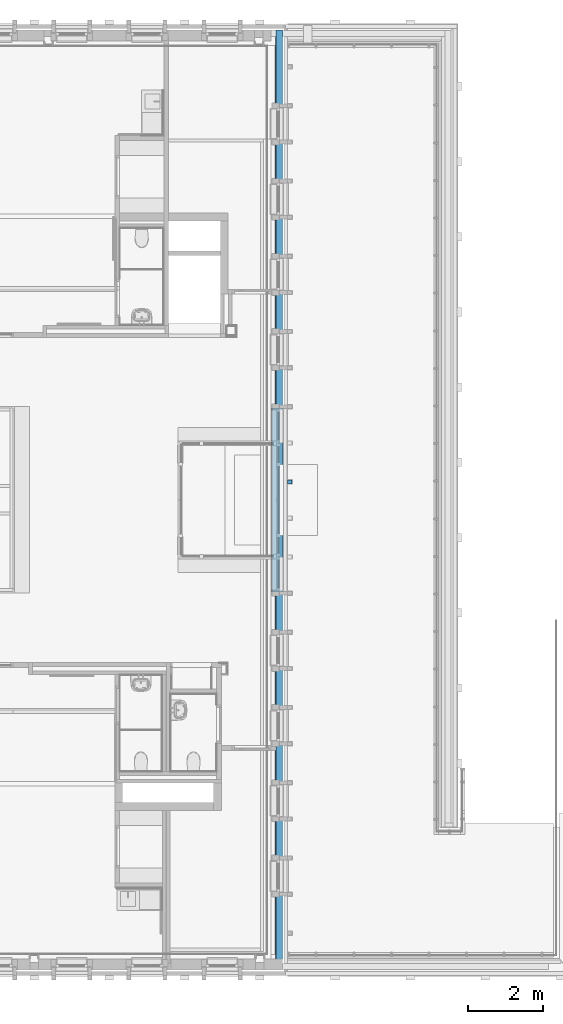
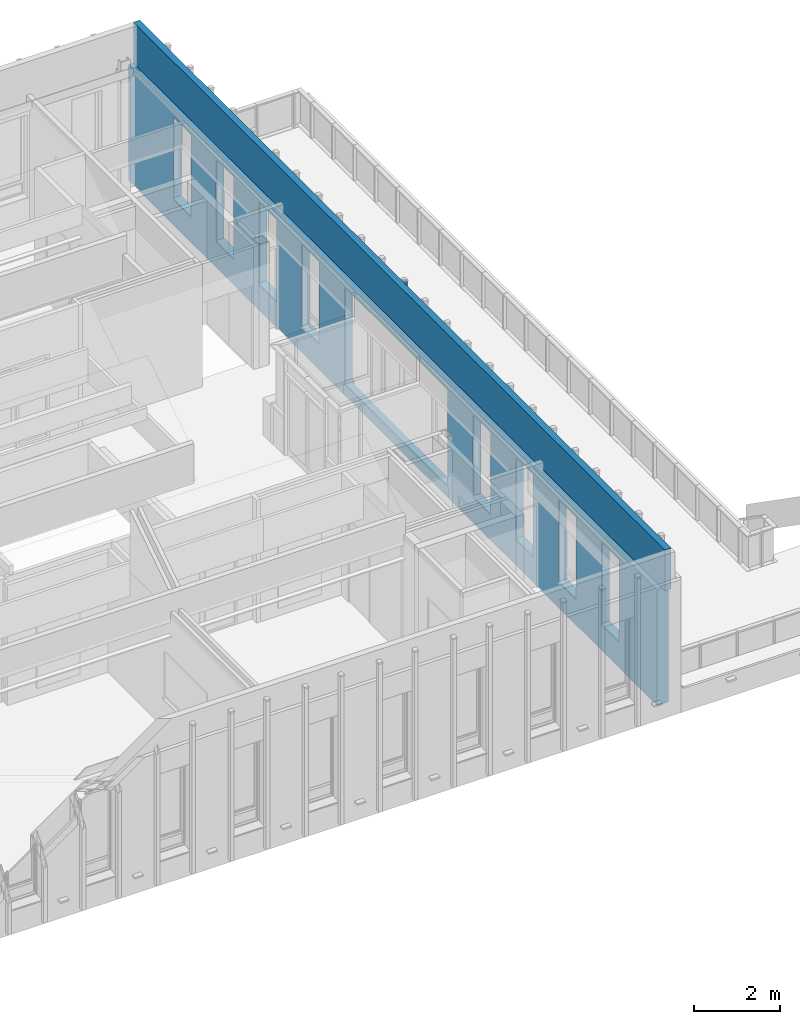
# One storey, part 46 of 118: 4 walls, 13 openings.
"""IFC2X3 building model written with IfcOpenShell, lengths in millimetres."""

from ifc_helpers import new_model, entity, si_unit, converted_unit, derived_unit, direction, frame, frame_2d, origin, origin_2d_with_axis, place, context, subcontext, project, spatial, rectangle, extrude, faceted_brep, material, layer, layer_set, layer_usage, type_object, element, save


model = new_model("IFC2X3")

# Units and contexts
model_context = context("Model", 3, precision=0.01, world=origin(), true_north=direction((6.123031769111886e-17, 1.0)))
plan_context = context("Plan", 3, precision=0.01, world=origin(), true_north=direction((6.123031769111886e-17, 1.0)))
body_context = subcontext(model_context, "Body", "Model", "MODEL_VIEW")
ifc_project = project(units=[si_unit("LENGTHUNIT", "METRE", prefix="MILLI"), si_unit("AREAUNIT", "SQUARE_METRE"), si_unit("VOLUMEUNIT", "CUBIC_METRE"), converted_unit("PLANEANGLEUNIT", "DEGREE", entity("IfcRatioMeasure", 0.017453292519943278), si_unit("PLANEANGLEUNIT", "RADIAN"), dimensions=[0, 0, 0, 0, 0, 0, 0]), si_unit("MASSUNIT", "GRAM", prefix="KILO"), derived_unit("MASSDENSITYUNIT", [(si_unit("MASSUNIT", "GRAM", prefix="KILO"), 1), (si_unit("LENGTHUNIT", "METRE"), -3)]), derived_unit("IONCONCENTRATIONUNIT", [(si_unit("MASSUNIT", "GRAM", prefix="KILO"), 1), (si_unit("LENGTHUNIT", "METRE"), -3)]), derived_unit("MOMENTOFINERTIAUNIT", [(si_unit("LENGTHUNIT", "METRE"), 4)]), si_unit("TIMEUNIT", "SECOND"), si_unit("FREQUENCYUNIT", "HERTZ"), si_unit("THERMODYNAMICTEMPERATUREUNIT", "DEGREE_CELSIUS"), derived_unit("THERMALTRANSMITTANCEUNIT", [(si_unit("MASSUNIT", "GRAM", prefix="KILO"), 1), (si_unit("THERMODYNAMICTEMPERATUREUNIT", "KELVIN"), -1), (si_unit("TIMEUNIT", "SECOND"), -3)]), derived_unit("THERMALCONDUCTANCEUNIT", [(si_unit("MASSUNIT", "GRAM", prefix="KILO"), 1), (si_unit("THERMODYNAMICTEMPERATUREUNIT", "KELVIN"), -1), (si_unit("TIMEUNIT", "SECOND"), -3), (si_unit("LENGTHUNIT", "METRE"), 1)]), derived_unit("VOLUMETRICFLOWRATEUNIT", [(si_unit("LENGTHUNIT", "METRE"), 3), (si_unit("TIMEUNIT", "SECOND"), -1)]), derived_unit("MASSFLOWRATEUNIT", [(si_unit("MASSUNIT", "GRAM", prefix="KILO"), 1), (si_unit("TIMEUNIT", "SECOND"), -1)]), derived_unit("ROTATIONALFREQUENCYUNIT", [(si_unit("TIMEUNIT", "SECOND"), -1)]), si_unit("ELECTRICCURRENTUNIT", "AMPERE"), si_unit("ELECTRICVOLTAGEUNIT", "VOLT"), si_unit("POWERUNIT", "WATT"), si_unit("FORCEUNIT", "NEWTON", prefix="KILO"), si_unit("ILLUMINANCEUNIT", "LUX"), si_unit("LUMINOUSFLUXUNIT", "LUMEN"), si_unit("LUMINOUSINTENSITYUNIT", "CANDELA"), derived_unit("USERDEFINED", [(si_unit("MASSUNIT", "GRAM", prefix="KILO"), -1), (si_unit("LENGTHUNIT", "METRE"), -2), (si_unit("TIMEUNIT", "SECOND"), 3), (si_unit("LUMINOUSFLUXUNIT", "LUMEN"), 1)]), derived_unit("USERDEFINED", [(si_unit("MASSUNIT", "GRAM", prefix="KILO"), 1), (si_unit("TIMEUNIT", "SECOND"), -3), (si_unit("LENGTHUNIT", "METRE"), 3), (si_unit("ELECTRICCURRENTUNIT", "AMPERE"), -2)]), derived_unit("SOUNDPOWERUNIT", [(si_unit("MASSUNIT", "GRAM", prefix="KILO"), 1), (si_unit("TIMEUNIT", "SECOND"), -3), (si_unit("LENGTHUNIT", "METRE"), 2)]), derived_unit("SOUNDPRESSUREUNIT", [(si_unit("MASSUNIT", "GRAM", prefix="KILO"), 1), (si_unit("LENGTHUNIT", "METRE"), -1), (si_unit("TIMEUNIT", "SECOND"), -2)]), derived_unit("LINEARVELOCITYUNIT", [(si_unit("LENGTHUNIT", "METRE"), 1), (si_unit("TIMEUNIT", "SECOND"), -1)]), si_unit("PRESSUREUNIT", "PASCAL"), derived_unit("USERDEFINED", [(si_unit("MASSUNIT", "GRAM", prefix="KILO"), 1), (si_unit("LENGTHUNIT", "METRE"), -2), (si_unit("TIMEUNIT", "SECOND"), -2)]), derived_unit("LINEARFORCEUNIT", [(si_unit("MASSUNIT", "GRAM", prefix="KILO"), 1), (si_unit("TIMEUNIT", "SECOND"), -2)]), derived_unit("PLANARFORCEUNIT", [(si_unit("MASSUNIT", "GRAM", prefix="KILO"), 1), (si_unit("LENGTHUNIT", "METRE"), -1), (si_unit("TIMEUNIT", "SECOND"), -2)]), derived_unit("SPECIFICHEATCAPACITYUNIT", [(si_unit("THERMODYNAMICTEMPERATUREUNIT", "KELVIN"), -1), (si_unit("LENGTHUNIT", "METRE"), 2), (si_unit("TIMEUNIT", "SECOND"), -2)]), derived_unit("HEATINGVALUEUNIT", [(si_unit("LENGTHUNIT", "METRE"), 2), (si_unit("TIMEUNIT", "SECOND"), -2)]), derived_unit("VAPORPERMEABILITYUNIT", [(si_unit("LENGTHUNIT", "METRE"), -1), (si_unit("TIMEUNIT", "SECOND"), 1)]), derived_unit("DYNAMICVISCOSITYUNIT", [(si_unit("MASSUNIT", "GRAM", prefix="KILO"), 1), (si_unit("TIMEUNIT", "SECOND"), -1), (si_unit("LENGTHUNIT", "METRE"), -1)]), derived_unit("THERMALEXPANSIONCOEFFICIENTUNIT", [(si_unit("THERMODYNAMICTEMPERATUREUNIT", "KELVIN"), -1)]), derived_unit("MODULUSOFELASTICITYUNIT", [(si_unit("MASSUNIT", "GRAM", prefix="KILO"), 1), (si_unit("LENGTHUNIT", "METRE"), -1), (si_unit("TIMEUNIT", "SECOND"), -2)]), derived_unit("ISOTHERMALMOISTURECAPACITYUNIT", [(si_unit("LENGTHUNIT", "METRE"), 3), (si_unit("MASSUNIT", "GRAM", prefix="KILO"), -1)]), derived_unit("MOISTUREDIFFUSIVITYUNIT", [(si_unit("TIMEUNIT", "SECOND"), -1), (si_unit("LENGTHUNIT", "METRE"), 2)])], contexts=[model_context, plan_context])

# Site, building, storey
site_placement = place(None, origin())
site = spatial("IfcSite", under=ifc_project, at=site_placement, Name="Locatie", CompositionType="ELEMENT")
building_placement = place(site_placement, origin())
building = spatial("IfcBuilding", under=site, at=building_placement, Name="Bouwwerk", CompositionType="ELEMENT")
storey_placement = place(building_placement, frame((0.0, 0.0, 7800.0)))
storey = spatial("IfcBuildingStorey", under=building, at=storey_placement, Name="02 tweede verdieping", CompositionType="ELEMENT", Elevation=7800.000000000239)

# Wall, openings
ifc_material_1 = material(Name="n7_isolatie_glaswol")
ifc_layer_1 = layer(ifc_material_1, 30.0)
ifc_layer_2 = layer(ifc_material_1, 245.0)
ifc_material_2 = material(Name="i4_multiplex")
ifc_layer_3 = layer(ifc_material_2, 12.0)
ifc_material_3 = material(Name="f7_gipsvezel")
ifc_layer_4 = layer(ifc_material_3, 13.000000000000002)
ifc_layer_set_1 = layer_set([ifc_layer_1, ifc_layer_2, ifc_layer_3, ifc_layer_4], Name="Basic Wall:NLRS_22_WA_HSB bispouw 30-245-12-13 glaswol_gen_ISR")
ifc_layer_usage_1 = layer_usage(ifc_layer_set_1, "AXIS2", "NEGATIVE", 150.0)
wall_type_1 = type_object("IfcWallType", Name="Basic Wall:NLRS_22_WA_HSB bispouw 30-245-12-13 glaswol_gen_ISR", PredefinedType="STANDARD", material=ifc_layer_set_1)
wall_1_placement = place(storey_placement, frame((34750.0, 34700.0, -30.0), z_axis=(0.0, 0.0, 1.0), x_axis=(0.0, -1.0, 0.0)))
wall_1 = element("IfcWallStandardCase", 1, at=wall_1_placement, inside=storey, type_object=wall_type_1, material=ifc_layer_usage_1, Name="Basic Wall:NLRS_22_WA_HSB bispouw 30-245-12-13 glaswol_gen_ISR", ObjectType="Basic Wall:NLRS_22_WA_HSB bispouw 30-245-12-13 glaswol_gen_ISR", context=body_context, shape_type="SweptSolid", body=[
    extrude(rectangle(XDim=24699.999999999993, YDim=300.0000000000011, at=frame_2d((12349.999999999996, 1.8474111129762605e-13), x_axis=(1.0, 0.0))), origin(), (0.0, 0.0, 1.0), 3305.0000000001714),
])
opening_1_placement = place(wall_1_placement, origin())
element("IfcOpeningElement", 2, at=opening_1_placement, cuts=wall_1, Name="Basic Wall:NLRS_22_WA_HSB bispouw 30-245-12-13 glaswol_gen_ISR", ObjectType="Opening", context=body_context, shape_type="SweptSolid", body=[
    extrude(rectangle(XDim=324.9999999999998, YDim=4906.000000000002, at=origin_2d_with_axis()), frame((12500.0, -150.0, 162.49999999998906), z_axis=(0.0, 1.0, 0.0), x_axis=(0.0, 0.0, -1.0)), (0.0, 0.0, 1.0), 300.0000000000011),
])
opening_2_placement = place(wall_1_placement, origin())
element("IfcOpeningElement", 3, at=opening_2_placement, cuts=wall_1, Name="Basic Wall:NLRS_22_WA_HSB bispouw 30-245-12-13 glaswol_gen_ISR", ObjectType="Opening", context=body_context, shape_type="SweptSolid", body=[
    extrude(rectangle(XDim=2387.000000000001, YDim=124.99999999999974, at=frame_2d((-1.0835776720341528e-12, -1.1368683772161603e-12), x_axis=(0.0, 1.0))), frame((19093.0, -1184.0, 1223.4999999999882), z_axis=(0.0, 1.0, 0.0), x_axis=(1.0, 0.0, 0.0)), (0.0, 0.0, 1.0), 1034.0000000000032),
])
opening_3_placement = place(wall_1_placement, origin())
element("IfcOpeningElement", 4, at=opening_3_placement, cuts=wall_1, Name="Basic Wall:NLRS_22_WA_HSB bispouw 30-245-12-13 glaswol_gen_ISR", ObjectType="Opening", context=body_context, shape_type="SweptSolid", body=[
    extrude(rectangle(XDim=2387.000000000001, YDim=125.0000000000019, at=frame_2d((-2.1671553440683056e-12, -1.1368683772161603e-12), x_axis=(0.0, 1.0))), frame((6960.500000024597, -1184.0, 1223.4999999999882), z_axis=(0.0, 1.0, 0.0), x_axis=(1.0, 0.0, 0.0)), (0.0, 0.0, 1.0), 1034.0000000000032),
])
opening_4_placement = place(wall_1_placement, frame((15056.0, -150.0, 216.0), z_axis=(0.0, 0.0, 1.0), x_axis=(0.0, 1.0, 0.0)))
element("IfcOpeningElement", 5, at=opening_4_placement, cuts=wall_1, Name="Basic Wall:NLRS_22_WA_HSB bispouw 30-245-12-13 glaswol_gen_ISR", ObjectType="Opening", context=body_context, shape_type="Brep", body=[
    faceted_brep([(340.0, 24.0, 2884.0), (340.0, 103.0, 2884.0), (340.0, 103.0, 42.0), (340.0, 5009.0, 42.0), (340.0, 5009.0, 2884.0), (340.0, 5088.0, 2884.0), (340.0, 5088.0, 0.0), (340.0, 24.0, 0.0), (640.0, 5088.0, 2884.0), (640.0, 24.0, 2884.0), (640.0, 24.0, 0.0), (640.0, 5088.0, 0.0), (25.0, 5112.0, 3011.0), (25.0, 5112.0, 62.0), (25.0, 0.0, 62.0), (25.0, 0.0, 3011.0), (25.0, 4964.0, 2860.0), (25.0, 148.0, 2860.0), (25.0, 148.0, 87.0), (25.0, 4964.0, 87.0), (300.0, 5112.0, 3011.0), (300.0, 5112.0, 62.0), (300.0, 5009.0, 62.0), (300.0, 103.0, 62.0), (300.0, 0.0, 62.0), (300.0, 0.0, 3011.0), (300.0, 103.0, 42.0), (300.0, 5009.0, 42.0), (340.0, 103.0, 2925.0), (340.0, 5009.0, 2925.0), (300.0, 5009.0, 2925.0), (300.0, 103.0, 2925.0), (0.0, 4964.0, 2860.0), (0.0, 4964.0, 87.0), (0.0, 148.0, 87.0), (0.0, 148.0, 2860.0)], [[[0, 1, 2, 3, 4, 5, 6, 7]], [[8, 9, 10, 11]], [[5, 8, 11, 6]], [[6, 11, 10, 7]], [[7, 10, 9, 0]], [[8, 5, 4, 1, 0, 9]], [[12, 13, 14, 15], [16, 17, 18, 19]], [[12, 20, 21, 13]], [[13, 21, 22, 23, 24, 14]], [[14, 24, 25, 15]], [[15, 25, 20, 12]], [[26, 23, 22, 27]], [[28, 1, 4, 29]], [[29, 30, 31, 28]], [[32, 33, 34, 35]], [[32, 16, 19, 33]], [[33, 19, 18, 34]], [[34, 18, 17, 35]], [[35, 17, 16, 32]], [[20, 25, 24, 23, 31, 30, 22, 21]], [[27, 22, 30, 29, 4, 3]], [[2, 1, 28, 31, 23, 26]], [[27, 3, 2, 26]]]),
])
opening_5_placement = place(wall_1_placement, frame((3056.0, -325.0, 633.0), z_axis=(0.0, 0.0, 1.0), x_axis=(0.0, 1.0, 0.0)))
element("IfcOpeningElement", 6, at=opening_5_placement, cuts=wall_1, Name="Basic Wall:NLRS_22_WA_HSB bispouw 30-245-12-13 glaswol_gen_ISR", ObjectType="Opening", context=body_context, shape_type="Brep", body=[
    faceted_brep([(515.0, 24.0, 2472.0), (515.0, 103.0, 2472.0), (515.0, 103.0, 42.0), (515.0, 1009.0, 42.0), (515.0, 1009.0, 2472.0), (515.0, 1088.0, 2472.0), (515.0, 1088.0, 0.0), (515.0, 24.0, 0.0), (615.0, 1088.0, 2472.0), (615.0, 24.0, 2472.0), (615.0, 24.0, 0.0), (615.0, 1088.0, 0.0), (200.0, 1112.0, 2594.0), (200.0, 1112.0, 11.0), (200.0, 0.0, 11.0), (200.0, 0.0, 2594.0), (200.0, 964.0, 2443.0), (200.0, 148.0, 2443.0), (200.0, 148.0, 87.0), (200.0, 964.0, 87.0), (475.0, 1112.0, 2594.0), (475.0, 0.0, 2594.0), (475.0, 0.0, 11.0), (475.0, 1112.0, 11.0), (475.0, 1009.0, 42.0), (475.0, 103.0, 42.0), (475.0, 103.0, 2508.0), (475.0, 1009.0, 2508.0), (515.0, 103.0, 2508.0), (515.0, 1009.0, 2508.0), (0.0, 964.0, 2443.0), (0.0, 964.0, 87.0), (0.0, 148.0, 87.0), (0.0, 148.0, 2443.0)], [[[0, 1, 2, 3, 4, 5, 6, 7]], [[8, 9, 10, 11]], [[5, 8, 11, 6]], [[6, 11, 10, 7]], [[7, 10, 9, 0]], [[8, 5, 4, 1, 0, 9]], [[12, 13, 14, 15], [16, 17, 18, 19]], [[20, 21, 22, 23], [24, 25, 26, 27]], [[12, 20, 23, 13]], [[13, 23, 22, 14]], [[14, 22, 21, 15]], [[15, 21, 20, 12]], [[28, 1, 4, 29]], [[3, 2, 25, 24]], [[29, 27, 26, 28]], [[30, 31, 32, 33]], [[30, 16, 19, 31]], [[31, 19, 18, 32]], [[32, 18, 17, 33]], [[33, 17, 16, 30]], [[24, 27, 29, 4, 3]], [[2, 1, 28, 26, 25]]]),
])
opening_6_placement = place(wall_1_placement, frame((5056.0, -325.0, 633.0), z_axis=(0.0, 0.0, 1.0), x_axis=(0.0, 1.0, 0.0)))
element("IfcOpeningElement", 7, at=opening_6_placement, cuts=wall_1, Name="Basic Wall:NLRS_22_WA_HSB bispouw 30-245-12-13 glaswol_gen_ISR", ObjectType="Opening", context=body_context, shape_type="Brep", body=[
    faceted_brep([(515.0, 24.0, 2472.0), (515.0, 103.0, 2472.0), (515.0, 103.0, 42.0), (515.0, 1009.0, 42.0), (515.0, 1009.0, 2472.0), (515.0, 1088.0, 2472.0), (515.0, 1088.0, 0.0), (515.0, 24.0, 0.0), (615.0, 1088.0, 2472.0), (615.0, 24.0, 2472.0), (615.0, 24.0, 0.0), (615.0, 1088.0, 0.0), (200.0, 1112.0, 2594.0), (200.0, 1112.0, 11.0), (200.0, 0.0, 11.0), (200.0, 0.0, 2594.0), (200.0, 964.0, 2443.0), (200.0, 148.0, 2443.0), (200.0, 148.0, 87.0), (200.0, 964.0, 87.0), (475.0, 1112.0, 2594.0), (475.0, 0.0, 2594.0), (475.0, 0.0, 11.0), (475.0, 1112.0, 11.0), (475.0, 1009.0, 42.0), (475.0, 103.0, 42.0), (475.0, 103.0, 2508.0), (475.0, 1009.0, 2508.0), (515.0, 103.0, 2508.0), (515.0, 1009.0, 2508.0), (0.0, 964.0, 2443.0), (0.0, 964.0, 87.0), (0.0, 148.0, 87.0), (0.0, 148.0, 2443.0)], [[[0, 1, 2, 3, 4, 5, 6, 7]], [[8, 9, 10, 11]], [[5, 8, 11, 6]], [[6, 11, 10, 7]], [[7, 10, 9, 0]], [[8, 5, 4, 1, 0, 9]], [[12, 13, 14, 15], [16, 17, 18, 19]], [[20, 21, 22, 23], [24, 25, 26, 27]], [[12, 20, 23, 13]], [[13, 23, 22, 14]], [[14, 22, 21, 15]], [[15, 21, 20, 12]], [[28, 1, 4, 29]], [[3, 2, 25, 24]], [[29, 27, 26, 28]], [[30, 31, 32, 33]], [[30, 16, 19, 31]], [[31, 19, 18, 32]], [[32, 18, 17, 33]], [[33, 17, 16, 30]], [[24, 27, 29, 4, 3]], [[2, 1, 28, 26, 25]]]),
])
opening_7_placement = place(wall_1_placement, frame((7056.0, -325.0, 633.0), z_axis=(0.0, 0.0, 1.0), x_axis=(0.0, 1.0, 0.0)))
element("IfcOpeningElement", 8, at=opening_7_placement, cuts=wall_1, Name="Basic Wall:NLRS_22_WA_HSB bispouw 30-245-12-13 glaswol_gen_ISR", ObjectType="Opening", context=body_context, shape_type="Brep", body=[
    faceted_brep([(515.0, 24.0, 2472.0), (515.0, 103.0, 2472.0), (515.0, 103.0, 42.0), (515.0, 1009.0, 42.0), (515.0, 1009.0, 2472.0), (515.0, 1088.0, 2472.0), (515.0, 1088.0, 0.0), (515.0, 24.0, 0.0), (615.0, 1088.0, 2472.0), (615.0, 24.0, 2472.0), (615.0, 24.0, 0.0), (615.0, 1088.0, 0.0), (200.0, 1112.0, 2594.0), (200.0, 1112.0, 11.0), (200.0, 0.0, 11.0), (200.0, 0.0, 2594.0), (200.0, 964.0, 2443.0), (200.0, 148.0, 2443.0), (200.0, 148.0, 87.0), (200.0, 964.0, 87.0), (475.0, 1112.0, 2594.0), (475.0, 0.0, 2594.0), (475.0, 0.0, 11.0), (475.0, 1112.0, 11.0), (475.0, 1009.0, 42.0), (475.0, 103.0, 42.0), (475.0, 103.0, 2508.0), (475.0, 1009.0, 2508.0), (515.0, 103.0, 2508.0), (515.0, 1009.0, 2508.0), (0.0, 964.0, 2443.0), (0.0, 964.0, 87.0), (0.0, 148.0, 87.0), (0.0, 148.0, 2443.0)], [[[0, 1, 2, 3, 4, 5, 6, 7]], [[8, 9, 10, 11]], [[5, 8, 11, 6]], [[6, 11, 10, 7]], [[7, 10, 9, 0]], [[8, 5, 4, 1, 0, 9]], [[12, 13, 14, 15], [16, 17, 18, 19]], [[20, 21, 22, 23], [24, 25, 26, 27]], [[12, 20, 23, 13]], [[13, 23, 22, 14]], [[14, 22, 21, 15]], [[15, 21, 20, 12]], [[28, 1, 4, 29]], [[3, 2, 25, 24]], [[29, 27, 26, 28]], [[30, 31, 32, 33]], [[30, 16, 19, 31]], [[31, 19, 18, 32]], [[32, 18, 17, 33]], [[33, 17, 16, 30]], [[24, 27, 29, 4, 3]], [[2, 1, 28, 26, 25]]]),
])
opening_8_placement = place(wall_1_placement, frame((17056.0, -325.0, 633.0), z_axis=(0.0, 0.0, 1.0), x_axis=(0.0, 1.0, 0.0)))
element("IfcOpeningElement", 9, at=opening_8_placement, cuts=wall_1, Name="Basic Wall:NLRS_22_WA_HSB bispouw 30-245-12-13 glaswol_gen_ISR", ObjectType="Opening", context=body_context, shape_type="Brep", body=[
    faceted_brep([(515.0, 24.0, 2472.0), (515.0, 103.0, 2472.0), (515.0, 103.0, 42.0), (515.0, 1009.0, 42.0), (515.0, 1009.0, 2472.0), (515.0, 1088.0, 2472.0), (515.0, 1088.0, 0.0), (515.0, 24.0, 0.0), (615.0, 1088.0, 2472.0), (615.0, 24.0, 2472.0), (615.0, 24.0, 0.0), (615.0, 1088.0, 0.0), (200.0, 1112.0, 2594.0), (200.0, 1112.0, 11.0), (200.0, 0.0, 11.0), (200.0, 0.0, 2594.0), (200.0, 964.0, 2443.0), (200.0, 148.0, 2443.0), (200.0, 148.0, 87.0), (200.0, 964.0, 87.0), (475.0, 1112.0, 2594.0), (475.0, 0.0, 2594.0), (475.0, 0.0, 11.0), (475.0, 1112.0, 11.0), (475.0, 1009.0, 42.0), (475.0, 103.0, 42.0), (475.0, 103.0, 2508.0), (475.0, 1009.0, 2508.0), (515.0, 103.0, 2508.0), (515.0, 1009.0, 2508.0), (0.0, 964.0, 2443.0), (0.0, 964.0, 87.0), (0.0, 148.0, 87.0), (0.0, 148.0, 2443.0)], [[[0, 1, 2, 3, 4, 5, 6, 7]], [[8, 9, 10, 11]], [[5, 8, 11, 6]], [[6, 11, 10, 7]], [[7, 10, 9, 0]], [[8, 5, 4, 1, 0, 9]], [[12, 13, 14, 15], [16, 17, 18, 19]], [[20, 21, 22, 23], [24, 25, 26, 27]], [[12, 20, 23, 13]], [[13, 23, 22, 14]], [[14, 22, 21, 15]], [[15, 21, 20, 12]], [[28, 1, 4, 29]], [[3, 2, 25, 24]], [[29, 27, 26, 28]], [[30, 31, 32, 33]], [[30, 16, 19, 31]], [[31, 19, 18, 32]], [[32, 18, 17, 33]], [[33, 17, 16, 30]], [[24, 27, 29, 4, 3]], [[2, 1, 28, 26, 25]]]),
])
opening_9_placement = place(wall_1_placement, frame((19056.0, -325.0, 633.0), z_axis=(0.0, 0.0, 1.0), x_axis=(0.0, 1.0, 0.0)))
element("IfcOpeningElement", 10, at=opening_9_placement, cuts=wall_1, Name="Basic Wall:NLRS_22_WA_HSB bispouw 30-245-12-13 glaswol_gen_ISR", ObjectType="Opening", context=body_context, shape_type="Brep", body=[
    faceted_brep([(515.0, 24.0, 2472.0), (515.0, 103.0, 2472.0), (515.0, 103.0, 42.0), (515.0, 1009.0, 42.0), (515.0, 1009.0, 2472.0), (515.0, 1088.0, 2472.0), (515.0, 1088.0, 0.0), (515.0, 24.0, 0.0), (615.0, 1088.0, 2472.0), (615.0, 24.0, 2472.0), (615.0, 24.0, 0.0), (615.0, 1088.0, 0.0), (200.0, 1112.0, 2594.0), (200.0, 1112.0, 11.0), (200.0, 0.0, 11.0), (200.0, 0.0, 2594.0), (200.0, 964.0, 2443.0), (200.0, 148.0, 2443.0), (200.0, 148.0, 87.0), (200.0, 964.0, 87.0), (475.0, 1112.0, 2594.0), (475.0, 0.0, 2594.0), (475.0, 0.0, 11.0), (475.0, 1112.0, 11.0), (475.0, 1009.0, 42.0), (475.0, 103.0, 42.0), (475.0, 103.0, 2508.0), (475.0, 1009.0, 2508.0), (515.0, 103.0, 2508.0), (515.0, 1009.0, 2508.0), (0.0, 964.0, 2443.0), (0.0, 964.0, 87.0), (0.0, 148.0, 87.0), (0.0, 148.0, 2443.0)], [[[0, 1, 2, 3, 4, 5, 6, 7]], [[8, 9, 10, 11]], [[5, 8, 11, 6]], [[6, 11, 10, 7]], [[7, 10, 9, 0]], [[8, 5, 4, 1, 0, 9]], [[12, 13, 14, 15], [16, 17, 18, 19]], [[20, 21, 22, 23], [24, 25, 26, 27]], [[12, 20, 23, 13]], [[13, 23, 22, 14]], [[14, 22, 21, 15]], [[15, 21, 20, 12]], [[28, 1, 4, 29]], [[3, 2, 25, 24]], [[29, 27, 26, 28]], [[30, 31, 32, 33]], [[30, 16, 19, 31]], [[31, 19, 18, 32]], [[32, 18, 17, 33]], [[33, 17, 16, 30]], [[24, 27, 29, 4, 3]], [[2, 1, 28, 26, 25]]]),
])
opening_10_placement = place(wall_1_placement, frame((21056.0, -325.0, 633.0), z_axis=(0.0, 0.0, 1.0), x_axis=(0.0, 1.0, 0.0)))
element("IfcOpeningElement", 11, at=opening_10_placement, cuts=wall_1, Name="Basic Wall:NLRS_22_WA_HSB bispouw 30-245-12-13 glaswol_gen_ISR", ObjectType="Opening", context=body_context, shape_type="Brep", body=[
    faceted_brep([(515.0, 24.0, 2472.0), (515.0, 103.0, 2472.0), (515.0, 103.0, 42.0), (515.0, 1009.0, 42.0), (515.0, 1009.0, 2472.0), (515.0, 1088.0, 2472.0), (515.0, 1088.0, 0.0), (515.0, 24.0, 0.0), (615.0, 1088.0, 2472.0), (615.0, 24.0, 2472.0), (615.0, 24.0, 0.0), (615.0, 1088.0, 0.0), (200.0, 1112.0, 2594.0), (200.0, 1112.0, 11.0), (200.0, 0.0, 11.0), (200.0, 0.0, 2594.0), (200.0, 964.0, 2443.0), (200.0, 148.0, 2443.0), (200.0, 148.0, 87.0), (200.0, 964.0, 87.0), (475.0, 1112.0, 2594.0), (475.0, 0.0, 2594.0), (475.0, 0.0, 11.0), (475.0, 1112.0, 11.0), (475.0, 1009.0, 42.0), (475.0, 103.0, 42.0), (475.0, 103.0, 2508.0), (475.0, 1009.0, 2508.0), (515.0, 103.0, 2508.0), (515.0, 1009.0, 2508.0), (0.0, 964.0, 2443.0), (0.0, 964.0, 87.0), (0.0, 148.0, 87.0), (0.0, 148.0, 2443.0)], [[[0, 1, 2, 3, 4, 5, 6, 7]], [[8, 9, 10, 11]], [[5, 8, 11, 6]], [[6, 11, 10, 7]], [[7, 10, 9, 0]], [[8, 5, 4, 1, 0, 9]], [[12, 13, 14, 15], [16, 17, 18, 19]], [[20, 21, 22, 23], [24, 25, 26, 27]], [[12, 20, 23, 13]], [[13, 23, 22, 14]], [[14, 22, 21, 15]], [[15, 21, 20, 12]], [[28, 1, 4, 29]], [[3, 2, 25, 24]], [[29, 27, 26, 28]], [[30, 31, 32, 33]], [[30, 16, 19, 31]], [[31, 19, 18, 32]], [[32, 18, 17, 33]], [[33, 17, 16, 30]], [[24, 27, 29, 4, 3]], [[2, 1, 28, 26, 25]]]),
])
opening_11_placement = place(wall_1_placement, frame((23056.0, -325.0, 633.0), z_axis=(0.0, 0.0, 1.0), x_axis=(0.0, 1.0, 0.0)))
element("IfcOpeningElement", 12, at=opening_11_placement, cuts=wall_1, Name="Basic Wall:NLRS_22_WA_HSB bispouw 30-245-12-13 glaswol_gen_ISR", ObjectType="Opening", context=body_context, shape_type="Brep", body=[
    faceted_brep([(515.0, 24.0, 2472.0), (515.0, 103.0, 2472.0), (515.0, 103.0, 42.0), (515.0, 1009.0, 42.0), (515.0, 1009.0, 2472.0), (515.0, 1088.0, 2472.0), (515.0, 1088.0, 0.0), (515.0, 24.0, 0.0), (615.0, 1088.0, 2472.0), (615.0, 24.0, 2472.0), (615.0, 24.0, 0.0), (615.0, 1088.0, 0.0), (200.0, 1112.0, 2594.0), (200.0, 1112.0, 11.0), (200.0, 0.0, 11.0), (200.0, 0.0, 2594.0), (200.0, 964.0, 2443.0), (200.0, 148.0, 2443.0), (200.0, 148.0, 87.0), (200.0, 964.0, 87.0), (475.0, 1112.0, 2594.0), (475.0, 0.0, 2594.0), (475.0, 0.0, 11.0), (475.0, 1112.0, 11.0), (475.0, 1009.0, 42.0), (475.0, 103.0, 42.0), (475.0, 103.0, 2508.0), (475.0, 1009.0, 2508.0), (515.0, 103.0, 2508.0), (515.0, 1009.0, 2508.0), (0.0, 964.0, 2443.0), (0.0, 964.0, 87.0), (0.0, 148.0, 87.0), (0.0, 148.0, 2443.0)], [[[0, 1, 2, 3, 4, 5, 6, 7]], [[8, 9, 10, 11]], [[5, 8, 11, 6]], [[6, 11, 10, 7]], [[7, 10, 9, 0]], [[8, 5, 4, 1, 0, 9]], [[12, 13, 14, 15], [16, 17, 18, 19]], [[20, 21, 22, 23], [24, 25, 26, 27]], [[12, 20, 23, 13]], [[13, 23, 22, 14]], [[14, 22, 21, 15]], [[15, 21, 20, 12]], [[28, 1, 4, 29]], [[3, 2, 25, 24]], [[29, 27, 26, 28]], [[30, 31, 32, 33]], [[30, 16, 19, 31]], [[31, 19, 18, 32]], [[32, 18, 17, 33]], [[33, 17, 16, 30]], [[24, 27, 29, 4, 3]], [[2, 1, 28, 26, 25]]]),
])
opening_12_placement = place(wall_1_placement, frame((9056.0, -325.0, 633.0), z_axis=(0.0, 0.0, 1.0), x_axis=(0.0, 1.0, 0.0)))
element("IfcOpeningElement", 13, at=opening_12_placement, cuts=wall_1, Name="Basic Wall:NLRS_22_WA_HSB bispouw 30-245-12-13 glaswol_gen_ISR", ObjectType="Opening", context=body_context, shape_type="Brep", body=[
    faceted_brep([(515.0, 24.0, 2472.0), (515.0, 103.0, 2472.0), (515.0, 103.0, 42.0), (515.0, 1009.0, 42.0), (515.0, 1009.0, 2472.0), (515.0, 1088.0, 2472.0), (515.0, 1088.0, 0.0), (515.0, 24.0, 0.0), (615.0, 1088.0, 2472.0), (615.0, 24.0, 2472.0), (615.0, 24.0, 0.0), (615.0, 1088.0, 0.0), (200.0, 1112.0, 2594.0), (200.0, 1112.0, 11.0), (200.0, 0.0, 11.0), (200.0, 0.0, 2594.0), (200.0, 964.0, 2443.0), (200.0, 148.0, 2443.0), (200.0, 148.0, 87.0), (200.0, 964.0, 87.0), (475.0, 1112.0, 2594.0), (475.0, 0.0, 2594.0), (475.0, 0.0, 11.0), (475.0, 1112.0, 11.0), (475.0, 1009.0, 42.0), (475.0, 103.0, 42.0), (475.0, 103.0, 2508.0), (475.0, 1009.0, 2508.0), (515.0, 103.0, 2508.0), (515.0, 1009.0, 2508.0), (0.0, 964.0, 2443.0), (0.0, 964.0, 87.0), (0.0, 148.0, 87.0), (0.0, 148.0, 2443.0)], [[[0, 1, 2, 3, 4, 5, 6, 7]], [[8, 9, 10, 11]], [[5, 8, 11, 6]], [[6, 11, 10, 7]], [[7, 10, 9, 0]], [[8, 5, 4, 1, 0, 9]], [[12, 13, 14, 15], [16, 17, 18, 19]], [[20, 21, 22, 23], [24, 25, 26, 27]], [[12, 20, 23, 13]], [[13, 23, 22, 14]], [[14, 22, 21, 15]], [[15, 21, 20, 12]], [[28, 1, 4, 29]], [[3, 2, 25, 24]], [[29, 27, 26, 28]], [[30, 31, 32, 33]], [[30, 16, 19, 31]], [[31, 19, 18, 32]], [[32, 18, 17, 33]], [[33, 17, 16, 30]], [[24, 27, 29, 4, 3]], [[2, 1, 28, 26, 25]]]),
])

# Walls
ifc_material_4 = material(Name="g2_metselwerk_geel licht")
ifc_layer_5 = layer(ifc_material_4, 100.0)
ifc_layer_set_2 = layer_set([ifc_layer_5], Name="Basic Wall:21_WA_metselwerk_licht_100_gen_bdg")
ifc_layer_usage_2 = layer_usage(ifc_layer_set_2, "AXIS2", "NEGATIVE", 50.0)
wall_type_2 = type_object("IfcWallType", Name="Basic Wall:21_WA_metselwerk_licht_100_gen_bdg", PredefinedType="STANDARD", material=ifc_layer_set_2)
wall_2_placement = place(storey_placement, frame((35040.0, 22682.0, 3075.0)))
element("IfcWallStandardCase", 14, at=wall_2_placement, inside=storey, type_object=wall_type_2, material=ifc_layer_usage_2, Name="Basic Wall:21_WA_metselwerk_licht_100_gen_bdg", ObjectType="Basic Wall:21_WA_metselwerk_licht_100_gen_bdg", context=body_context, shape_type="SweptSolid", body=[
    extrude(rectangle(XDim=114.99999999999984, YDim=100.00000000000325, at=frame_2d((57.49999999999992, 2.948752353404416e-13), x_axis=(-1.0, 0.0))), origin(), (0.0, 0.0, 1.0), 1157.0000000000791),
])
ifc_layer_6 = layer(ifc_material_1, 160.0)
ifc_layer_7 = layer(ifc_material_2, 10.0)
ifc_layer_set_3 = layer_set([ifc_layer_6, ifc_layer_7], Name="Basic Wall:NLRS_22_WA_HSB dakrand 160+10 _gen_bdg")
ifc_layer_usage_3 = layer_usage(ifc_layer_set_3, "AXIS2", "NEGATIVE", 85.0)
wall_type_3 = type_object("IfcWallType", Name="Basic Wall:NLRS_22_WA_HSB dakrand 160+10 _gen_bdg", PredefinedType="STANDARD", material=ifc_layer_set_3)
wall_3_placement = place(storey_placement, frame((34815.0, 34702.0, 3275.0), z_axis=(0.0, 0.0, 1.0), x_axis=(0.0, -1.0, 0.0)))
element("IfcWallStandardCase", 15, at=wall_3_placement, inside=storey, type_object=wall_type_3, material=ifc_layer_usage_3, Name="Basic Wall:NLRS_22_WA_HSB dakrand 160+10 _gen_bdg", ObjectType="Basic Wall:NLRS_22_WA_HSB dakrand 160+10 _gen_bdg", context=body_context, shape_type="SweptSolid", body=[
    extrude(rectangle(XDim=24833.99999999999, YDim=169.99999999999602, at=frame_2d((12416.999999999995, -1.6342482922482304e-13), x_axis=(-1.0, 0.0))), origin(), (0.0, 0.0, 1.0), 1164.999999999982),
])

# Wall, opening
ifc_material_5 = material(Name="ISR_Vezelcement")
ifc_layer_8 = layer(ifc_material_5, 15.0)
ifc_material_6 = material(Name="n7_isolatie_gen")
ifc_layer_9 = layer(ifc_material_6, 170.0)
ifc_layer_10 = layer(ifc_material_2, 12.0)
ifc_layer_11 = layer(ifc_material_3, 13.000000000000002)
ifc_layer_set_4 = layer_set([ifc_layer_8, ifc_layer_9, ifc_layer_10, ifc_layer_11], Name="Basic Wall:NLRS_22_WA_HSB rek 15-170-12-13_gen_ISR")
ifc_layer_usage_4 = layer_usage(ifc_layer_set_4, "AXIS2", "NEGATIVE", 105.00000000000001)
wall_type_4 = type_object("IfcWallType", Name="Basic Wall:NLRS_22_WA_HSB rek 15-170-12-13_gen_ISR", PredefinedType="STANDARD", material=ifc_layer_set_4)
wall_4_placement = place(storey_placement, frame((34705.0, 24653.0, -30.0), z_axis=(0.0, 0.0, 1.0), x_axis=(0.0, -1.0, 0.0)))
wall_4 = element("IfcWallStandardCase", 16, at=wall_4_placement, inside=storey, type_object=wall_type_4, material=ifc_layer_usage_4, Name="Basic Wall:NLRS_22_WA_HSB rek 15-170-12-13_gen_ISR", ObjectType="Basic Wall:NLRS_22_WA_HSB rek 15-170-12-13_gen_ISR", context=body_context, shape_type="SweptSolid", body=[
    extrude(rectangle(XDim=4906.000000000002, YDim=210.00000000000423, at=frame_2d((2453.000000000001, 0.0), x_axis=(-1.0, 0.0))), origin(), (0.0, 0.0, 1.0), 324.99999999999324),
])
opening_13_placement = place(wall_4_placement, frame((5009.0, -105.0, 216.0)))
element("IfcOpeningElement", 17, at=opening_13_placement, cuts=wall_4, Name="Basic Wall:NLRS_22_WA_HSB rek 15-170-12-13_gen_ISR", ObjectType="Opening", context=body_context, shape_type="Brep", body=[
    faceted_brep([(-24.0, 340.0, 2884.0), (-103.0, 340.0, 2884.0), (-103.0, 340.0, 42.0), (-5009.0, 340.0, 42.0), (-5009.0, 340.0, 2884.0), (-5088.0, 340.0, 2884.0), (-5088.0, 340.0, 0.0), (-24.0, 340.0, 0.0), (-5088.0, 640.0, 2884.0), (-24.0, 640.0, 2884.0), (-24.0, 640.0, 0.0), (-5088.0, 640.0, 0.0), (-5112.0, 25.0, 3011.0), (-5112.0, 25.0, 62.0), (0.0, 25.0, 62.0), (0.0, 25.0, 3011.0), (-4964.0, 25.0, 2860.0), (-148.0, 25.0, 2860.0), (-148.0, 25.0, 87.0), (-4964.0, 25.0, 87.0), (-5112.0, 300.0, 3011.0), (-5112.0, 300.0, 62.0), (-5009.0, 300.0, 62.0), (-103.0, 300.0, 62.0), (0.0, 300.0, 62.0), (0.0, 300.0, 3011.0), (-103.0, 300.0, 42.0), (-5009.0, 300.0, 42.0), (-103.0, 340.0, 2925.0), (-5009.0, 340.0, 2925.0), (-5009.0, 300.0, 2925.0), (-103.0, 300.0, 2925.0), (-4964.0, 0.0, 2860.0), (-4964.0, 0.0, 87.0), (-148.0, 0.0, 87.0), (-148.0, 0.0, 2860.0)], [[[0, 1, 2, 3, 4, 5, 6, 7]], [[8, 9, 10, 11]], [[5, 8, 11, 6]], [[6, 11, 10, 7]], [[7, 10, 9, 0]], [[8, 5, 4, 1, 0, 9]], [[12, 13, 14, 15], [16, 17, 18, 19]], [[12, 20, 21, 13]], [[13, 21, 22, 23, 24, 14]], [[14, 24, 25, 15]], [[15, 25, 20, 12]], [[26, 23, 22, 27]], [[28, 1, 4, 29]], [[29, 30, 31, 28]], [[32, 33, 34, 35]], [[32, 16, 19, 33]], [[33, 19, 18, 34]], [[34, 18, 17, 35]], [[35, 17, 16, 32]], [[20, 25, 24, 23, 31, 30, 22, 21]], [[27, 22, 30, 29, 4, 3]], [[2, 1, 28, 31, 23, 26]], [[27, 3, 2, 26]]]),
])

save(model, "model.ifc")
